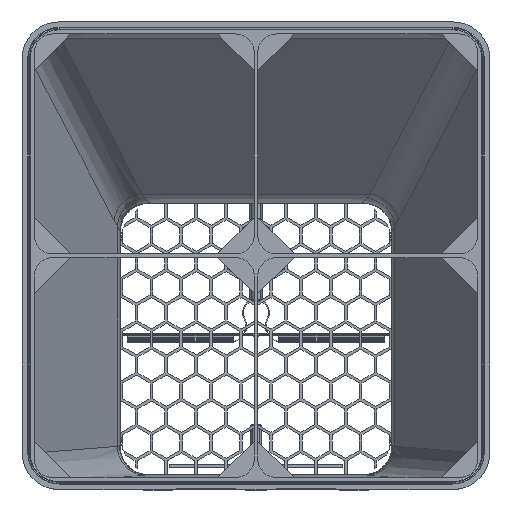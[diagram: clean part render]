
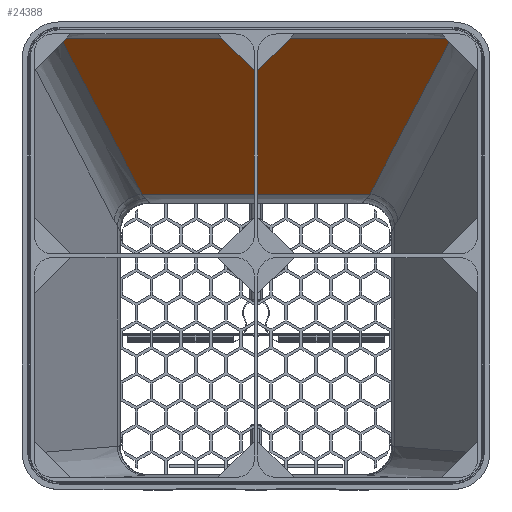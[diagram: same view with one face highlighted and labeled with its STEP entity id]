
A CAD part, left-side view. The second image highlights one B-rep face of the part: STEP entity #24388.
In plain terms, the highlighted free-form (B-spline) face has degree [3, 3] with [4, 4] control points.
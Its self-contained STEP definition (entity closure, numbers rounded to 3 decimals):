
#135=B_SPLINE_SURFACE_WITH_KNOTS('',3,3,((#44596,#44597,#44598,#44599),
(#44600,#44601,#44602,#44603),(#44604,#44605,#44606,#44607),(#44608,#44609,
#44610,#44611)),.UNSPECIFIED.,.F.,.F.,.U.,(4,4),(4,4),(0.,1.),(0.,1.),
 .UNSPECIFIED.);
#347=B_SPLINE_CURVE_WITH_KNOTS('',3,(#41116,#41117,#41118,#41119,#41120,
#41121,#41122,#41123,#41124,#41125),.UNSPECIFIED.,.F.,.U.,(4,2,2,2,4),(0.,
2.604,6.77,13.435,20.309),
 .UNSPECIFIED.);
#379=B_SPLINE_CURVE_WITH_KNOTS('',3,(#43012,#43013,#43014,#43015,#43016,
#43017,#43018,#43019,#43020,#43021),.UNSPECIFIED.,.F.,.U.,(4,2,2,2,4),(0.,
2.604,6.77,13.435,20.309),
 .UNSPECIFIED.);
#387=B_SPLINE_CURVE_WITH_KNOTS('',3,(#43871,#43872,#43873,#43874,#43875,
#43876,#43877,#43878,#43879,#43880,#43881,#43882,#43883,#43884,#43885,#43886,
#43887,#43888),.UNSPECIFIED.,.F.,.U.,(4,2,2,2,2,2,2,2,4),(0.,
2.626,5.172,6.764,7.759,8.753,
10.345,12.891,15.517),.UNSPECIFIED.);
#389=B_SPLINE_CURVE_WITH_KNOTS('',3,(#44287,#44288,#44289,#44290,#44291,
#44292,#44293,#44294,#44295,#44296,#44297,#44298,#44299,#44300,#44301,#44302,
#44303,#44304),.UNSPECIFIED.,.F.,.U.,(4,2,2,2,2,2,2,2,4),(-24.483,
-20.339,-16.322,-13.811,-12.241,
-10.672,-8.161,-4.143,0.),.UNSPECIFIED.);
#4163=VERTEX_POINT('',#41043);
#4164=VERTEX_POINT('',#41115);
#4195=VERTEX_POINT('',#42939);
#4196=VERTEX_POINT('',#43011);
#12837=EDGE_CURVE('',#4163,#4164,#347,.T.);
#12893=EDGE_CURVE('',#4196,#4195,#379,.F.);
#12905=EDGE_CURVE('',#4164,#4196,#387,.T.);
#12907=EDGE_CURVE('',#4195,#4163,#389,.T.);
#19438=ORIENTED_EDGE('',*,*,#12837,.T.);
#19439=ORIENTED_EDGE('',*,*,#12905,.T.);
#19440=ORIENTED_EDGE('',*,*,#12893,.T.);
#19441=ORIENTED_EDGE('',*,*,#12907,.T.);
#21487=EDGE_LOOP('',(#19438,#19439,#19440,#19441));
#23032=FACE_BOUND('',#21487,.T.);
#24388=ADVANCED_FACE('',(#23032),#135,.F.);
#41043=CARTESIAN_POINT('',(-51.971,10.766,16.603));
#41115=CARTESIAN_POINT('',(-34.129,6.284,7.997));
#41116=CARTESIAN_POINT('',(-51.971,10.766,16.603));
#41117=CARTESIAN_POINT('',(-51.208,10.575,16.236));
#41118=CARTESIAN_POINT('',(-50.446,10.383,15.868));
#41119=CARTESIAN_POINT('',(-48.463,9.885,14.911));
#41120=CARTESIAN_POINT('',(-47.243,9.579,14.323));
#41121=CARTESIAN_POINT('',(-44.072,8.782,12.793));
#41122=CARTESIAN_POINT('',(-42.12,8.291,11.851));
#41123=CARTESIAN_POINT('',(-38.155,7.295,9.939));
#41124=CARTESIAN_POINT('',(-36.142,6.789,8.968));
#41125=CARTESIAN_POINT('',(-34.129,6.284,7.997));
#42939=CARTESIAN_POINT('',(-51.971,-10.766,16.603));
#43011=CARTESIAN_POINT('',(-34.129,-6.284,7.997));
#43012=CARTESIAN_POINT('',(-51.971,-10.766,16.603));
#43013=CARTESIAN_POINT('',(-51.208,-10.575,16.236));
#43014=CARTESIAN_POINT('',(-50.446,-10.383,15.868));
#43015=CARTESIAN_POINT('',(-48.463,-9.885,14.911));
#43016=CARTESIAN_POINT('',(-47.243,-9.579,14.323));
#43017=CARTESIAN_POINT('',(-44.072,-8.782,12.793));
#43018=CARTESIAN_POINT('',(-42.12,-8.291,11.851));
#43019=CARTESIAN_POINT('',(-38.155,-7.295,9.939));
#43020=CARTESIAN_POINT('',(-36.142,-6.789,8.968));
#43021=CARTESIAN_POINT('',(-34.129,-6.284,7.997));
#43871=CARTESIAN_POINT('',(-34.129,7.759,7.997));
#43872=CARTESIAN_POINT('',(-34.129,6.883,7.997));
#43873=CARTESIAN_POINT('',(-34.129,6.008,7.997));
#43874=CARTESIAN_POINT('',(-34.129,4.284,7.997));
#43875=CARTESIAN_POINT('',(-34.129,3.435,7.997));
#43876=CARTESIAN_POINT('',(-34.129,2.056,7.997));
#43877=CARTESIAN_POINT('',(-34.129,1.525,7.997));
#43878=CARTESIAN_POINT('',(-34.129,0.663,7.997));
#43879=CARTESIAN_POINT('',(-34.129,0.332,7.997));
#43880=CARTESIAN_POINT('',(-34.129,-0.332,7.997));
#43881=CARTESIAN_POINT('',(-34.129,-0.663,7.997));
#43882=CARTESIAN_POINT('',(-34.129,-1.525,7.997));
#43883=CARTESIAN_POINT('',(-34.129,-2.056,7.997));
#43884=CARTESIAN_POINT('',(-34.129,-3.435,7.997));
#43885=CARTESIAN_POINT('',(-34.129,-4.284,7.997));
#43886=CARTESIAN_POINT('',(-34.129,-6.008,7.997));
#43887=CARTESIAN_POINT('',(-34.129,-6.883,7.997));
#43888=CARTESIAN_POINT('',(-34.129,-7.759,7.997));
#44287=CARTESIAN_POINT('',(-51.971,-12.241,16.603));
#44288=CARTESIAN_POINT('',(-51.971,-10.86,16.603));
#44289=CARTESIAN_POINT('',(-51.971,-9.479,16.603));
#44290=CARTESIAN_POINT('',(-51.971,-6.759,16.603));
#44291=CARTESIAN_POINT('',(-51.971,-5.42,16.603));
#44292=CARTESIAN_POINT('',(-51.971,-3.243,16.603));
#44293=CARTESIAN_POINT('',(-51.971,-2.406,16.603));
#44294=CARTESIAN_POINT('',(-51.971,-1.046,16.603));
#44295=CARTESIAN_POINT('',(-51.971,-0.523,16.603));
#44296=CARTESIAN_POINT('',(-51.971,0.523,16.603));
#44297=CARTESIAN_POINT('',(-51.971,1.046,16.603));
#44298=CARTESIAN_POINT('',(-51.971,2.406,16.603));
#44299=CARTESIAN_POINT('',(-51.971,3.243,16.603));
#44300=CARTESIAN_POINT('',(-51.971,5.42,16.603));
#44301=CARTESIAN_POINT('',(-51.971,6.759,16.603));
#44302=CARTESIAN_POINT('',(-51.971,9.479,16.603));
#44303=CARTESIAN_POINT('',(-51.971,10.86,16.603));
#44304=CARTESIAN_POINT('',(-51.971,12.241,16.603));
#44596=CARTESIAN_POINT('',(-53.,12.5,17.1));
#44597=CARTESIAN_POINT('',(-46.367,10.833,13.9));
#44598=CARTESIAN_POINT('',(-39.733,9.167,10.7));
#44599=CARTESIAN_POINT('',(-33.1,7.5,7.5));
#44600=CARTESIAN_POINT('',(-53.,4.167,17.1));
#44601=CARTESIAN_POINT('',(-46.367,3.611,13.9));
#44602=CARTESIAN_POINT('',(-39.733,3.056,10.7));
#44603=CARTESIAN_POINT('',(-33.1,2.5,7.5));
#44604=CARTESIAN_POINT('',(-53.,-4.167,17.1));
#44605=CARTESIAN_POINT('',(-46.367,-3.611,13.9));
#44606=CARTESIAN_POINT('',(-39.733,-3.056,10.7));
#44607=CARTESIAN_POINT('',(-33.1,-2.5,7.5));
#44608=CARTESIAN_POINT('',(-53.,-12.5,17.1));
#44609=CARTESIAN_POINT('',(-46.367,-10.833,13.9));
#44610=CARTESIAN_POINT('',(-39.733,-9.167,10.7));
#44611=CARTESIAN_POINT('',(-33.1,-7.5,7.5));
